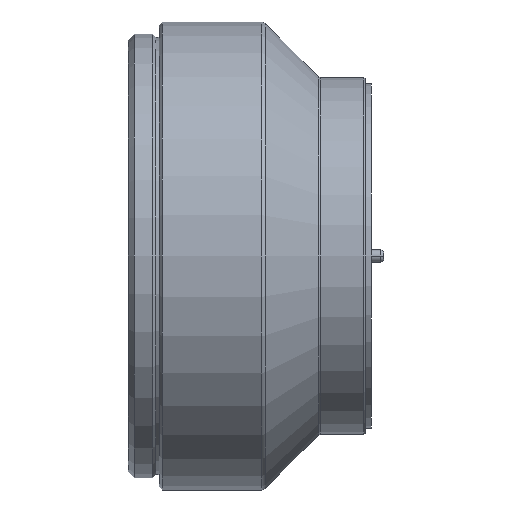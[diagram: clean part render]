
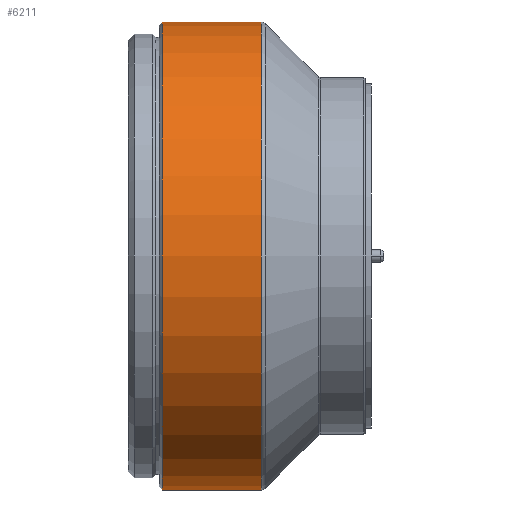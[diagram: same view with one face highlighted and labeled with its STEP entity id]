
A CAD part, front view. The second image highlights one B-rep face of the part: STEP entity #6211.
In plain terms, the highlighted cylindrical face has radius 38 mm (diameter 76 mm), a partial arc.
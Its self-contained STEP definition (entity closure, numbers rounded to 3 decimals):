
#1852=DIRECTION('',(1.,0.,0.));
#1853=VECTOR('',#1852,16.086);
#1854=CARTESIAN_POINT('',(-33.,0.,38.));
#1855=LINE('',#1854,#1853);
#1856=DIRECTION('',(1.,0.,0.));
#1857=VECTOR('',#1856,16.086);
#1858=CARTESIAN_POINT('',(-33.,0.,-38.));
#1859=LINE('',#1858,#1857);
#1864=CARTESIAN_POINT('',(-33.,0.,0.));
#1865=DIRECTION('',(-1.,0.,0.));
#1866=DIRECTION('',(0.,0.,-1.));
#1867=AXIS2_PLACEMENT_3D('',#1864,#1865,#1866);
#2142=CARTESIAN_POINT('',(-16.914,0.,0.));
#2143=DIRECTION('',(1.,0.,0.));
#2144=DIRECTION('',(0.,0.,1.));
#2145=AXIS2_PLACEMENT_3D('',#2142,#2143,#2144);
#4808=CARTESIAN_POINT('',(-33.,0.,-38.));
#4809=CARTESIAN_POINT('',(-33.,0.,38.));
#4810=VERTEX_POINT('',#4808);
#4811=VERTEX_POINT('',#4809);
#4952=CARTESIAN_POINT('',(-16.914,0.,-38.));
#4953=CARTESIAN_POINT('',(-16.914,0.,38.));
#4954=VERTEX_POINT('',#4952);
#4955=VERTEX_POINT('',#4953);
#6198=CARTESIAN_POINT('',(-53.795,0.,0.));
#6199=DIRECTION('',(-1.,0.,0.));
#6200=DIRECTION('',(0.,0.,1.));
#6201=AXIS2_PLACEMENT_3D('',#6198,#6199,#6200);
#6202=CYLINDRICAL_SURFACE('',#6201,38.);
#6203=ORIENTED_EDGE('',*,*,#6193,.F.);
#6205=ORIENTED_EDGE('',*,*,#6204,.T.);
#6206=ORIENTED_EDGE('',*,*,#6189,.T.);
#6208=ORIENTED_EDGE('',*,*,#6207,.T.);
#6209=EDGE_LOOP('',(#6203,#6205,#6206,#6208));
#6210=FACE_OUTER_BOUND('',#6209,.F.);
#6211=ADVANCED_FACE('',(#6210),#6202,.T.);
#1868=CIRCLE('',#1867,38.);
#2146=CIRCLE('',#2145,38.);
#6189=EDGE_CURVE('',#4811,#4955,#1855,.T.);
#6193=EDGE_CURVE('',#4810,#4954,#1859,.T.);
#6204=EDGE_CURVE('',#4810,#4811,#1868,.T.);
#6207=EDGE_CURVE('',#4955,#4954,#2146,.T.);
